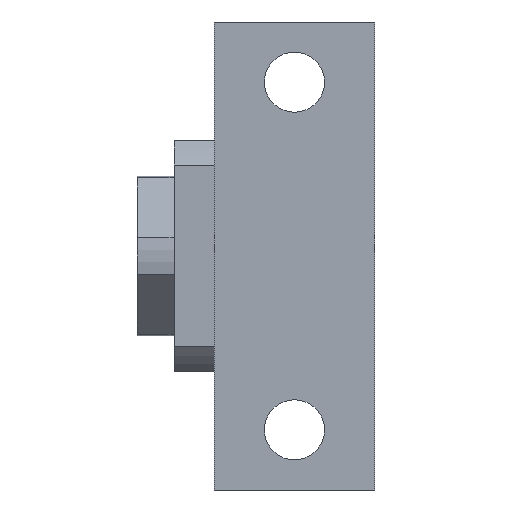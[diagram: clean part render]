
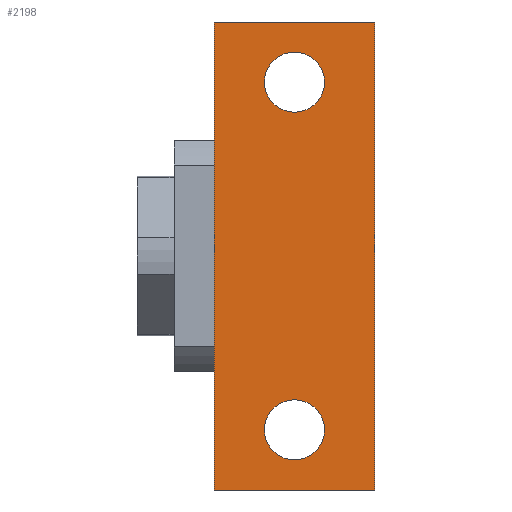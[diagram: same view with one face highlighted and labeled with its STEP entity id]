
A CAD part, front view. The second image highlights one B-rep face of the part: STEP entity #2198.
In plain terms, the highlighted planar face has unit normal (0, -1, 0).
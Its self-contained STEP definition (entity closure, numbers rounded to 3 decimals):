
#116=FACE_BOUND('',#508,.T.);
#117=FACE_BOUND('',#509,.T.);
#158=CIRCLE('',#2338,4.5);
#160=CIRCLE('',#2341,4.5);
#313=FACE_OUTER_BOUND('',#507,.T.);
#507=EDGE_LOOP('',(#1964,#1965,#1966,#1967));
#508=EDGE_LOOP('',(#1968));
#509=EDGE_LOOP('',(#1969));
#706=LINE('',#3670,#918);
#714=LINE('',#3685,#926);
#718=LINE('',#3693,#930);
#721=LINE('',#3699,#933);
#918=VECTOR('',#2971,70.);
#926=VECTOR('',#2985,24.);
#930=VECTOR('',#2991,70.);
#933=VECTOR('',#3000,24.);
#1070=VERTEX_POINT('',#3421);
#1072=VERTEX_POINT('',#3426);
#1127=VERTEX_POINT('',#3667);
#1128=VERTEX_POINT('',#3669);
#1132=VERTEX_POINT('',#3683);
#1135=VERTEX_POINT('',#3691);
#1320=EDGE_CURVE('',#1070,#1070,#158,.T.);
#1322=EDGE_CURVE('',#1072,#1072,#160,.T.);
#1398=EDGE_CURVE('',#1127,#1128,#706,.T.);
#1406=EDGE_CURVE('',#1132,#1127,#714,.T.);
#1410=EDGE_CURVE('',#1132,#1135,#718,.T.);
#1413=EDGE_CURVE('',#1128,#1135,#721,.T.);
#1964=ORIENTED_EDGE('',*,*,#1410,.T.);
#1965=ORIENTED_EDGE('',*,*,#1413,.F.);
#1966=ORIENTED_EDGE('',*,*,#1398,.F.);
#1967=ORIENTED_EDGE('',*,*,#1406,.F.);
#1968=ORIENTED_EDGE('',*,*,#1320,.T.);
#1969=ORIENTED_EDGE('',*,*,#1322,.T.);
#2065=PLANE('',#2396);
#2198=ADVANCED_FACE('',(#313,#116,#117),#2065,.F.);
#2338=AXIS2_PLACEMENT_3D('',#3422,#2817,#2818);
#2341=AXIS2_PLACEMENT_3D('',#3427,#2823,#2824);
#2396=AXIS2_PLACEMENT_3D('',#3700,#3001,#3002);
#2817=DIRECTION('center_axis',(0.,1.,0.));
#2818=DIRECTION('ref_axis',(1.,0.,0.));
#2823=DIRECTION('center_axis',(0.,1.,0.));
#2824=DIRECTION('ref_axis',(1.,0.,0.));
#2971=DIRECTION('',(0.,0.,-1.));
#2985=DIRECTION('',(1.,0.,0.));
#2991=DIRECTION('',(0.,0.,-1.));
#3000=DIRECTION('',(-1.,0.,0.));
#3001=DIRECTION('center_axis',(0.,1.,0.));
#3002=DIRECTION('ref_axis',(0.,0.,1.));
#3421=CARTESIAN_POINT('',(19.,-25.,26.));
#3422=CARTESIAN_POINT('Origin',(23.5,-25.,26.));
#3426=CARTESIAN_POINT('',(19.,-25.,-26.));
#3427=CARTESIAN_POINT('Origin',(23.5,-25.,-26.));
#3667=CARTESIAN_POINT('',(35.5,-25.,35.));
#3669=CARTESIAN_POINT('',(35.5,-25.,-35.));
#3670=CARTESIAN_POINT('',(35.5,-25.,0.));
#3683=CARTESIAN_POINT('',(11.5,-25.,35.));
#3685=CARTESIAN_POINT('',(23.5,-25.,35.));
#3691=CARTESIAN_POINT('',(11.5,-25.,-35.));
#3693=CARTESIAN_POINT('',(11.5,-25.,0.));
#3699=CARTESIAN_POINT('',(23.5,-25.,-35.));
#3700=CARTESIAN_POINT('Origin',(23.5,-25.,0.));
